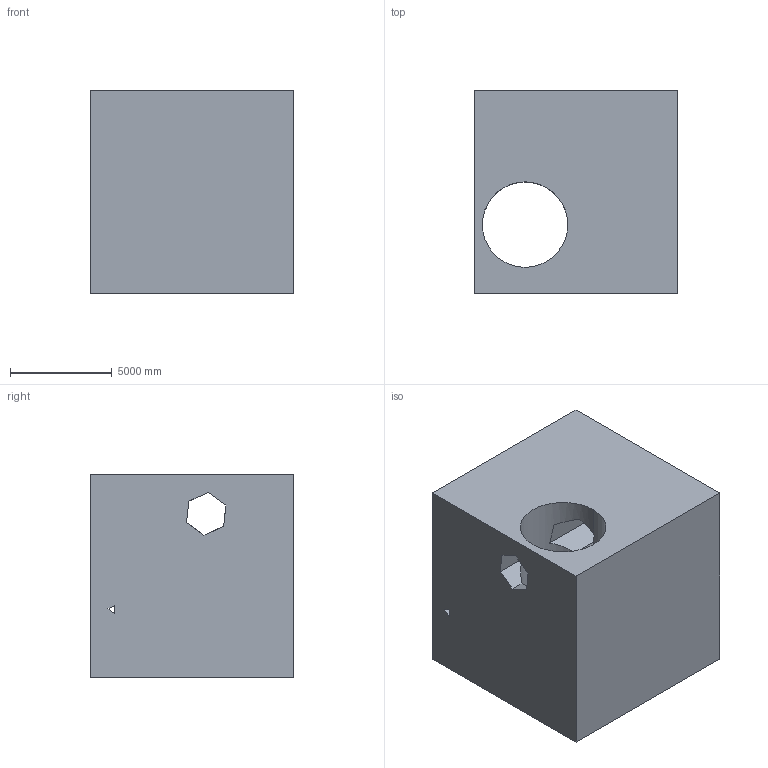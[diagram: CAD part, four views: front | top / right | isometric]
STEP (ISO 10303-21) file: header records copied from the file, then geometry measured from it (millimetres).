
FILE_DESCRIPTION (( 'STEP AP203' ), '1' );
FILE_NAME ('123.STEP', '2022-09-06T13:19:34', ( 'user' ), ( '' ), 'SwSTEP 2.0', 'SolidWorks 2021', '' );
FILE_SCHEMA (( 'CONFIG_CONTROL_DESIGN' ));
Length unit declared in the file: centimetre
Products named in the file (1): 123
Bounding box: 10000 x 10000 x 10000 mm (x, y, z)
Volume: 842147367107.5 mm3; surface area: 744785072.8 mm2
Topology: 1 solids, 1 shells, 23 faces, 69 edges, 46 vertices
Faces by surface type: plane 21, cylinder 2
Entity records: 860 total; most frequent: CARTESIAN_POINT 187, ORIENTED_EDGE 138, DIRECTION 105, EDGE_CURVE 69, VECTOR 49, LINE 49, VERTEX_POINT 46, EDGE_LOOP 29
